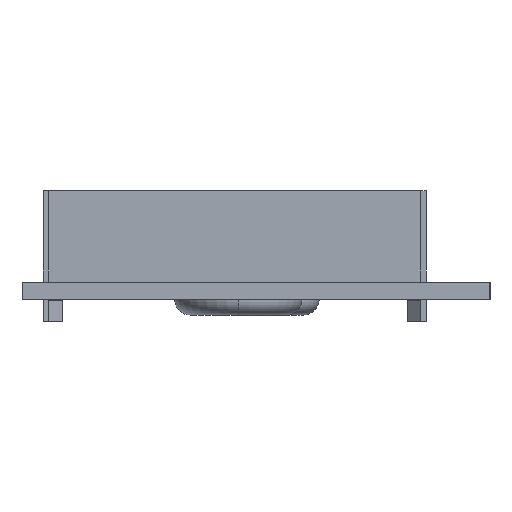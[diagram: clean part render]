
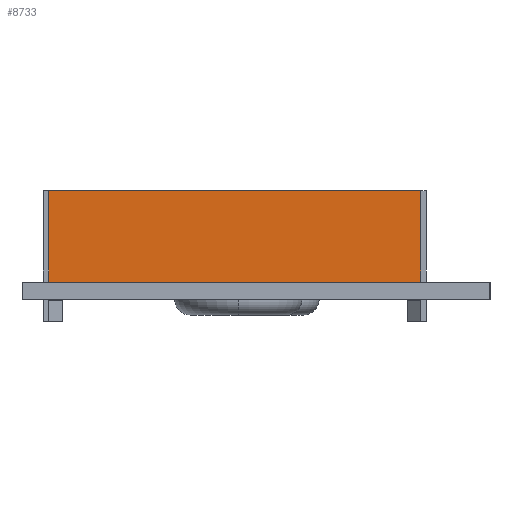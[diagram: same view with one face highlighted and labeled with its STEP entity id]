
A CAD part, left-side view. The second image highlights one B-rep face of the part: STEP entity #8733.
In plain terms, the highlighted planar face has unit normal (-1, 0, 0).
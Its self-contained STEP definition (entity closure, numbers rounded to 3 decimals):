
#73 = ORIENTED_EDGE ( 'NONE', *, *, #6097, .T. ) ;
#1146 = CARTESIAN_POINT ( 'NONE',  ( -53., -15.5, 10.2 ) ) ;
#1629 = LINE ( 'NONE', #12684, #7167 ) ;
#2716 = CARTESIAN_POINT ( 'NONE',  ( -53., 19.5, 10.2 ) ) ;
#2933 = LINE ( 'NONE', #1146, #5850 ) ;
#4143 = EDGE_CURVE ( 'NONE', #12168, #7819, #2933, .T. ) ;
#4183 = DIRECTION ( 'NONE',  ( 0., -1., 0. ) ) ;
#4301 = CARTESIAN_POINT ( 'NONE',  ( -53., 19.5, 10.2 ) ) ;
#4414 = DIRECTION ( 'NONE',  ( 1., 0., 0. ) ) ;
#4949 = DIRECTION ( 'NONE',  ( 0., -1., 0. ) ) ;
#5328 = ORIENTED_EDGE ( 'NONE', *, *, #9717, .T. ) ;
#5437 = CARTESIAN_POINT ( 'NONE',  ( -53., -15.5, 10.2 ) ) ;
#5850 = VECTOR ( 'NONE', #9962, 1000. ) ;
#6097 = EDGE_CURVE ( 'NONE', #11537, #13827, #11269, .T. ) ;
#6316 = CARTESIAN_POINT ( 'NONE',  ( -53., 19.5, 1.6 ) ) ;
#6552 = PLANE ( 'NONE',  #13257 ) ;
#6561 = EDGE_CURVE ( 'NONE', #11537, #12168, #13982, .T. ) ;
#7167 = VECTOR ( 'NONE', #4949, 1000. ) ;
#7639 = EDGE_LOOP ( 'NONE', ( #5328, #7925, #12300, #73 ) ) ;
#7819 = VERTEX_POINT ( 'NONE', #11501 ) ;
#7925 = ORIENTED_EDGE ( 'NONE', *, *, #4143, .F. ) ;
#8323 = VECTOR ( 'NONE', #10984, 1000. ) ;
#8733 = ADVANCED_FACE ( 'NONE', ( #9320 ), #6552, .F. ) ;
#9320 = FACE_OUTER_BOUND ( 'NONE', #7639, .T. ) ;
#9672 = VECTOR ( 'NONE', #4183, 1000. ) ;
#9717 = EDGE_CURVE ( 'NONE', #13827, #7819, #1629, .T. ) ;
#9962 = DIRECTION ( 'NONE',  ( 0., 0., -1. ) ) ;
#10848 = CARTESIAN_POINT ( 'NONE',  ( -53., 19.5, 10.2 ) ) ;
#10984 = DIRECTION ( 'NONE',  ( 0., 0., -1. ) ) ;
#11049 = CARTESIAN_POINT ( 'NONE',  ( -53., 19.5, 10.2 ) ) ;
#11269 = LINE ( 'NONE', #4301, #8323 ) ;
#11501 = CARTESIAN_POINT ( 'NONE',  ( -53., -15.5, 1.6 ) ) ;
#11537 = VERTEX_POINT ( 'NONE', #2716 ) ;
#12154 = DIRECTION ( 'NONE',  ( 0., 1., 0. ) ) ;
#12168 = VERTEX_POINT ( 'NONE', #5437 ) ;
#12300 = ORIENTED_EDGE ( 'NONE', *, *, #6561, .F. ) ;
#12684 = CARTESIAN_POINT ( 'NONE',  ( -53., 19.5, 1.6 ) ) ;
#13257 = AXIS2_PLACEMENT_3D ( 'NONE', #11049, #4414, #12154 ) ;
#13827 = VERTEX_POINT ( 'NONE', #6316 ) ;
#13982 = LINE ( 'NONE', #10848, #9672 ) ;
